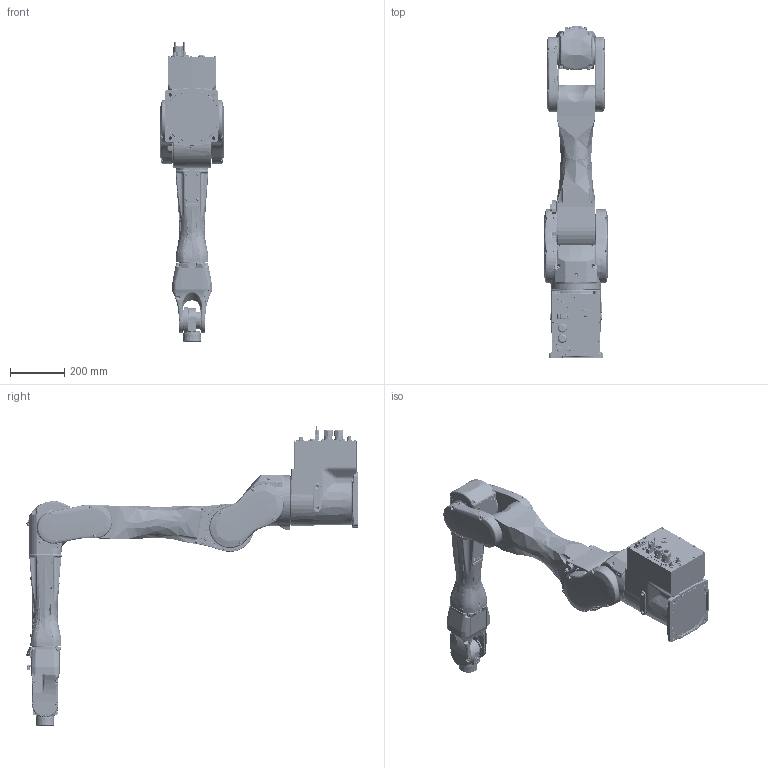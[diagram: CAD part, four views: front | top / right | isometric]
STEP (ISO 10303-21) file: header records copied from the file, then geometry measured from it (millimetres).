
FILE_DESCRIPTION((''),'2;1');
FILE_NAME('C8-A1401S_ASM','2015-06-04T',('5004972'),(''),'PRO/ENGINEER BY PARAMETRIC TECHNOLOGY CORPORATION, 2014440','PRO/ENGINEER BY PARAMETRIC TECHNOLOGY CORPORATION, 2014440','');
FILE_SCHEMA(('AUTOMOTIVE_DESIGN_CC2 { 1 2 10303 214 -1 1 5 2 }'));
Products named in the file (8): C8XL-S_BASE; C8XL-S_ARM1; C8XL-S_ARM2; C8XL-S_ARM3; C8XL-S_ARM4; C8XL-S_ARM5; C8XL-S_ARM6; C8-A1401S_ASM
Assembly tree (7 placements, depth 2):
  C8-A1401S_ASM
    C8XL-S_BASE
    C8XL-S_ARM1
    C8XL-S_ARM2
    C8XL-S_ARM3
    C8XL-S_ARM4
    C8XL-S_ARM5
    C8XL-S_ARM6
Bounding box: 236 x 1222.51 x 1104 mm (x, y, z)
Volume: 14264781.1 mm3; surface area: 3322361.5 mm2
Topology: 9 solids, 21 shells, 13271 faces, 33282 edges, 20519 vertices
Faces by surface type: plane 5790, cylinder 2895, bspline 2337, cone 1461, torus 566, sphere 219, revolution 2, extrusion 1
Entity records: 817065 total; most frequent: CARTESIAN_POINT 319054, ORIENTED_EDGE 66248, DIRECTION 57968, PRESENTATION_STYLE_ASSIGNMENT 46366, STYLED_ITEM 33136, CURVE_STYLE 33127, EDGE_CURVE 33124, VERTEX_POINT 20519
